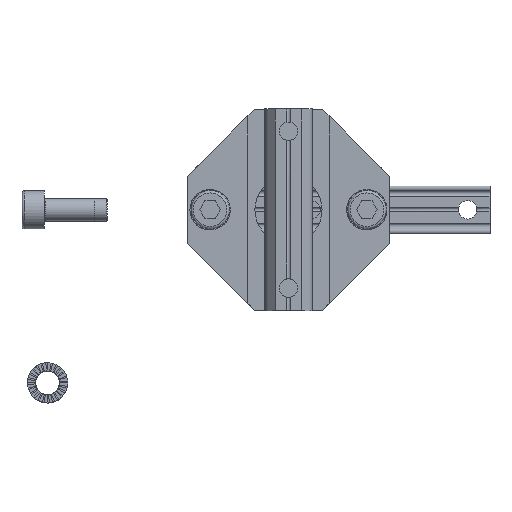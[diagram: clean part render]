
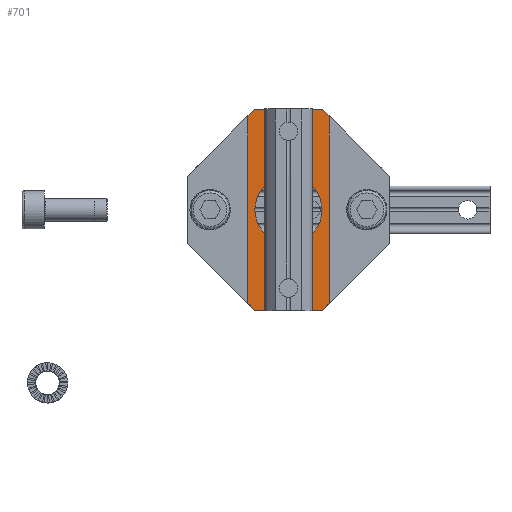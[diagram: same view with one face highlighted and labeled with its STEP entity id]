
A CAD part, top view. The second image highlights one B-rep face of the part: STEP entity #701.
In plain terms, the highlighted planar face has unit normal (0, 0, 1).
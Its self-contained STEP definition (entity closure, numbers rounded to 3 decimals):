
#701 = ADVANCED_FACE( '', ( #1438, #1439, #1440, #1441 ), #1442, .T. );
#1438 = FACE_BOUND( '', #2204, .T. );
#1439 = FACE_BOUND( '', #2205, .T. );
#1440 = FACE_OUTER_BOUND( '', #2206, .T. );
#1441 = FACE_BOUND( '', #2207, .T. );
#1442 = PLANE( '', #2208 );
#2204 = EDGE_LOOP( '', ( #4421 ) );
#2205 = EDGE_LOOP( '', ( #4422 ) );
#2206 = EDGE_LOOP( '', ( #4423, #4424, #4425, #4426, #4427, #4428, #4429, #4430 ) );
#2207 = EDGE_LOOP( '', ( #4431 ) );
#2208 = AXIS2_PLACEMENT_3D( '', #4432, #4433, #4434 );
#4421 = ORIENTED_EDGE( '', *, *, #5337, .F. );
#4422 = ORIENTED_EDGE( '', *, *, #5591, .F. );
#4423 = ORIENTED_EDGE( '', *, *, #4984, .F. );
#4424 = ORIENTED_EDGE( '', *, *, #5507, .T. );
#4425 = ORIENTED_EDGE( '', *, *, #5039, .F. );
#4426 = ORIENTED_EDGE( '', *, *, #5312, .T. );
#4427 = ORIENTED_EDGE( '', *, *, #5115, .F. );
#4428 = ORIENTED_EDGE( '', *, *, #5524, .T. );
#4429 = ORIENTED_EDGE( '', *, *, #5363, .F. );
#4430 = ORIENTED_EDGE( '', *, *, #5592, .T. );
#4431 = ORIENTED_EDGE( '', *, *, #5092, .F. );
#4432 = CARTESIAN_POINT( '', ( 0., 22.5, 5. ) );
#4433 = DIRECTION( '', ( 0., 0., 1. ) );
#4434 = DIRECTION( '', ( 1., 0., 0. ) );
#4984 = EDGE_CURVE( '', #6210, #6212, #6213, .T. );
#5039 = EDGE_CURVE( '', #6295, #6296, #6297, .T. );
#5092 = EDGE_CURVE( '', #6376, #6376, #6377, .T. );
#5115 = EDGE_CURVE( '', #6410, #6412, #6413, .T. );
#5312 = EDGE_CURVE( '', #6295, #6412, #6738, .F. );
#5337 = EDGE_CURVE( '', #6767, #6767, #6768, .T. );
#5363 = EDGE_CURVE( '', #6797, #6799, #6800, .T. );
#5507 = EDGE_CURVE( '', #6210, #6296, #6951, .F. );
#5524 = EDGE_CURVE( '', #6410, #6799, #6971, .F. );
#5591 = EDGE_CURVE( '', #7039, #7039, #7040, .T. );
#5592 = EDGE_CURVE( '', #6797, #6212, #7041, .F. );
#6210 = VERTEX_POINT( '', #8035 );
#6212 = VERTEX_POINT( '', #8038 );
#6213 = LINE( '', #8039, #8040 );
#6295 = VERTEX_POINT( '', #8157 );
#6296 = VERTEX_POINT( '', #8158 );
#6297 = LINE( '', #8159, #8160 );
#6376 = VERTEX_POINT( '', #8269 );
#6377 = CIRCLE( '', #8270, 2.6 );
#6410 = VERTEX_POINT( '', #8313 );
#6412 = VERTEX_POINT( '', #8316 );
#6413 = LINE( '', #8317, #8318 );
#6738 = LINE( '', #8775, #8776 );
#6767 = VERTEX_POINT( '', #8821 );
#6768 = CIRCLE( '', #8822, 7.5 );
#6797 = VERTEX_POINT( '', #8863 );
#6799 = VERTEX_POINT( '', #8866 );
#6800 = LINE( '', #8867, #8868 );
#6951 = LINE( '', #9091, #9092 );
#6971 = LINE( '', #9120, #9121 );
#7039 = VERTEX_POINT( '', #9209 );
#7040 = CIRCLE( '', #9210, 2.6 );
#7041 = LINE( '', #9211, #9212 );
#8035 = CARTESIAN_POINT( '', ( -9.05, -20.95, 5. ) );
#8038 = CARTESIAN_POINT( '', ( -9.05, 20.95, 5. ) );
#8039 = CARTESIAN_POINT( '', ( -9.05, -22.5, 5. ) );
#8040 = VECTOR( '', #9842, 1000. );
#8157 = CARTESIAN_POINT( '', ( 7.5, -22.5, 5. ) );
#8158 = CARTESIAN_POINT( '', ( -7.5, -22.5, 5. ) );
#8159 = CARTESIAN_POINT( '', ( 9.05, -22.5, 5. ) );
#8160 = VECTOR( '', #9893, 1000. );
#8269 = CARTESIAN_POINT( '', ( 0., 14.9, 5. ) );
#8270 = AXIS2_PLACEMENT_3D( '', #9948, #9949, #9950 );
#8313 = CARTESIAN_POINT( '', ( 9.05, 20.95, 5. ) );
#8316 = CARTESIAN_POINT( '', ( 9.05, -20.95, 5. ) );
#8317 = CARTESIAN_POINT( '', ( 9.05, 22.5, 5. ) );
#8318 = VECTOR( '', #9977, 1000. );
#8775 = CARTESIAN_POINT( '', ( 26.25, -3.75, 5. ) );
#8776 = VECTOR( '', #10308, 1000. );
#8821 = CARTESIAN_POINT( '', ( 0., 7.5, 5. ) );
#8822 = AXIS2_PLACEMENT_3D( '', #10325, #10326, #10327 );
#8863 = CARTESIAN_POINT( '', ( -7.5, 22.5, 5. ) );
#8866 = CARTESIAN_POINT( '', ( 7.5, 22.5, 5. ) );
#8867 = CARTESIAN_POINT( '', ( -22.5, 22.5, 5. ) );
#8868 = VECTOR( '', #10347, 1000. );
#9091 = CARTESIAN_POINT( '', ( -26.25, -3.75, 5. ) );
#9092 = VECTOR( '', #10432, 1000. );
#9120 = CARTESIAN_POINT( '', ( 3.75, 26.25, 5. ) );
#9121 = VECTOR( '', #10441, 1000. );
#9209 = CARTESIAN_POINT( '', ( 0., -20.1, 5. ) );
#9210 = AXIS2_PLACEMENT_3D( '', #10465, #10466, #10467 );
#9211 = CARTESIAN_POINT( '', ( -3.75, 26.25, 5. ) );
#9212 = VECTOR( '', #10468, 1000. );
#9842 = DIRECTION( '', ( 0., 1., 0. ) );
#9893 = DIRECTION( '', ( -1., 0., 0. ) );
#9948 = CARTESIAN_POINT( '', ( 0., 17.5, 5. ) );
#9949 = DIRECTION( '', ( 0., 0., 1. ) );
#9950 = DIRECTION( '', ( 0., -1., 0. ) );
#9977 = DIRECTION( '', ( 0., -1., 0. ) );
#10308 = DIRECTION( '', ( -0.707, -0.707, 0. ) );
#10325 = CARTESIAN_POINT( '', ( 0., 0., 5. ) );
#10326 = DIRECTION( '', ( 0., 0., 1. ) );
#10327 = DIRECTION( '', ( 0., 1., 0. ) );
#10347 = DIRECTION( '', ( 1., 0., 0. ) );
#10432 = DIRECTION( '', ( -0.707, 0.707, 0. ) );
#10441 = DIRECTION( '', ( 0.707, -0.707, 0. ) );
#10465 = CARTESIAN_POINT( '', ( 0., -17.5, 5. ) );
#10466 = DIRECTION( '', ( 0., 0., 1. ) );
#10467 = DIRECTION( '', ( 0., -1., 0. ) );
#10468 = DIRECTION( '', ( 0.707, 0.707, 0. ) );
